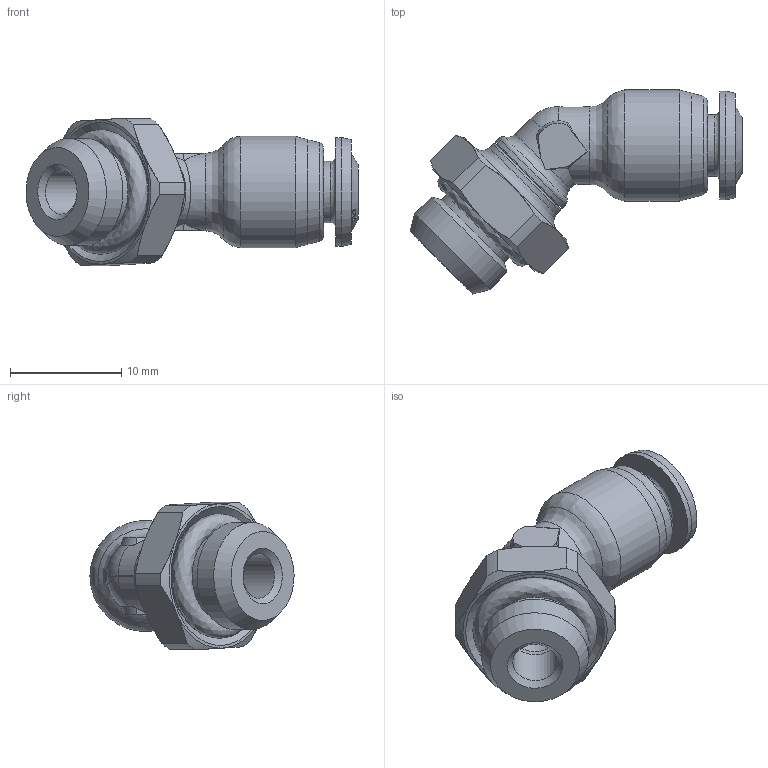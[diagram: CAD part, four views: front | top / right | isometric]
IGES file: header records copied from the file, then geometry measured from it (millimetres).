
Start section: SolidWorks IGES file using analytic representation for surfaces
Global section: file name: K:\Disegni Esecutivi\SERIE 55000\ASSIEMI_55000\55175\55175_igs\5517500004A.IGS; native system: SolidWorks 2012; preprocessor: SolidWorks 2012; author: cad05; date: 131015.162457; units: millimetre
Bounding box: 29.86 x 18.36 x 13.26 mm (x, y, z)
Surface area: 1800.8 mm2 (no closed solid volume)
Topology: 0 solids, 0 shells, 189 faces, 956 edges, 903 vertices
Faces by surface type: bspline 120, revolution 69
